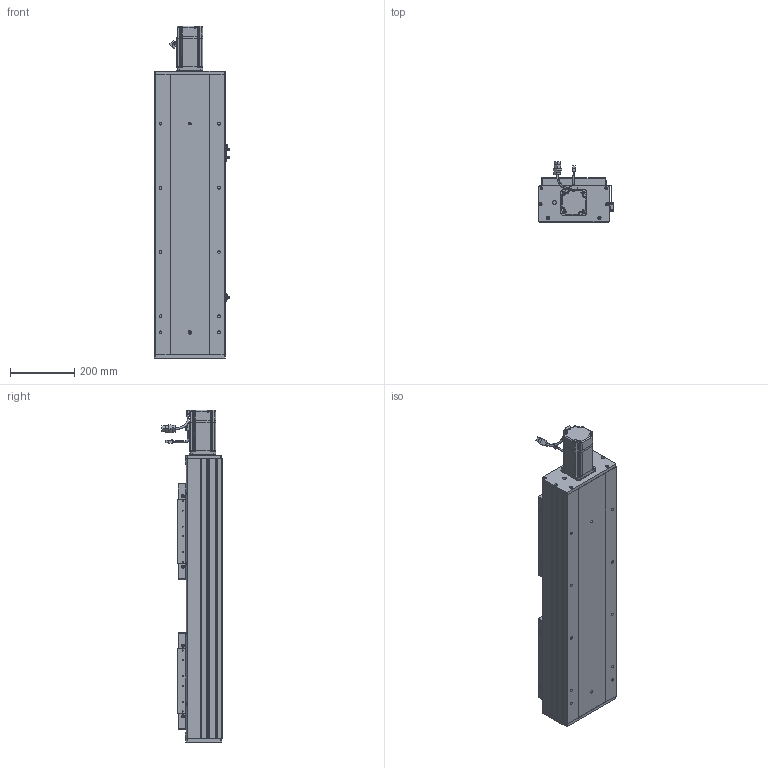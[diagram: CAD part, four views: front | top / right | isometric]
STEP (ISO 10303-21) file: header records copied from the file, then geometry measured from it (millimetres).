
FILE_DESCRIPTION (( 'STEP AP203' ), '1' );
FILE_NAME ('RY220F-L2525-300-MK.SLDASM_450.step', '2022-07-04T01:03:18', ( '' ), ( '' ), 'SwSTEP 2.0', 'SolidWorks 2016', '' );
FILE_SCHEMA (( 'CONFIG_CONTROL_DESIGN' ));
Length unit declared in the file: millimetre
Products named in the file (15): RY220F-詩湍揤踡輸; RY220F-L2525-300-MK.SLDASM_450; RY220F-奻裔啣-300_450; 滅袉蝶18-20; RY220F-672覜茼んえ; RY220F菁釱MK-300_450; RY220电机支撑座FK20（PCD90M6）; RY220F-滅鳥奻裔; 覜茼ん672; 滅袉蝶18-24; RY220F-祥凄詩湍-MK-300_450; 怢湛750W_ECMA-CX0807ES; RY220F臏賑釱25-32佪裝; RY220F綴裔啣; RY220Fヶ裔啣
Assembly tree (23 placements, depth 2):
  RY220F-L2525-300-MK.SLDASM_450
    RY220F菁釱MK-300_450
    RY220电机支撑座FK20（PCD90M6）
    RY220F-奻裔啣-300_450  x2
    怢湛750W_ECMA-CX0807ES
    RY220F臏賑釱25-32佪裝  x2
    RY220F-滅鳥奻裔  x2
    滅袉蝶18-20
    滅袉蝶18-24  x3
    RY220Fヶ裔啣
    RY220F綴裔啣
    RY220F-祥凄詩湍-MK-300_450
    RY220F-詩湍揤踡輸  x2
    覜茼ん672  x3
    RY220F-672覜茼んえ  x2
Bounding box: 233.7 x 187.27 x 1034.3 mm (x, y, z)
Volume: 11213072.2 mm3; surface area: 2671193 mm2
Topology: 24 solids, 24 shells, 2670 faces, 7330 edges, 4560 vertices
Faces by surface type: cylinder 1198, plane 1030, cone 379, bspline 37, sphere 16, torus 10
Entity records: 66454 total; most frequent: CARTESIAN_POINT 18076, ORIENTED_EDGE 9834, DIRECTION 9474, EDGE_CURVE 4917, AXIS2_PLACEMENT_3D 3351, VERTEX_POINT 3200, VECTOR 2772, LINE 2772
